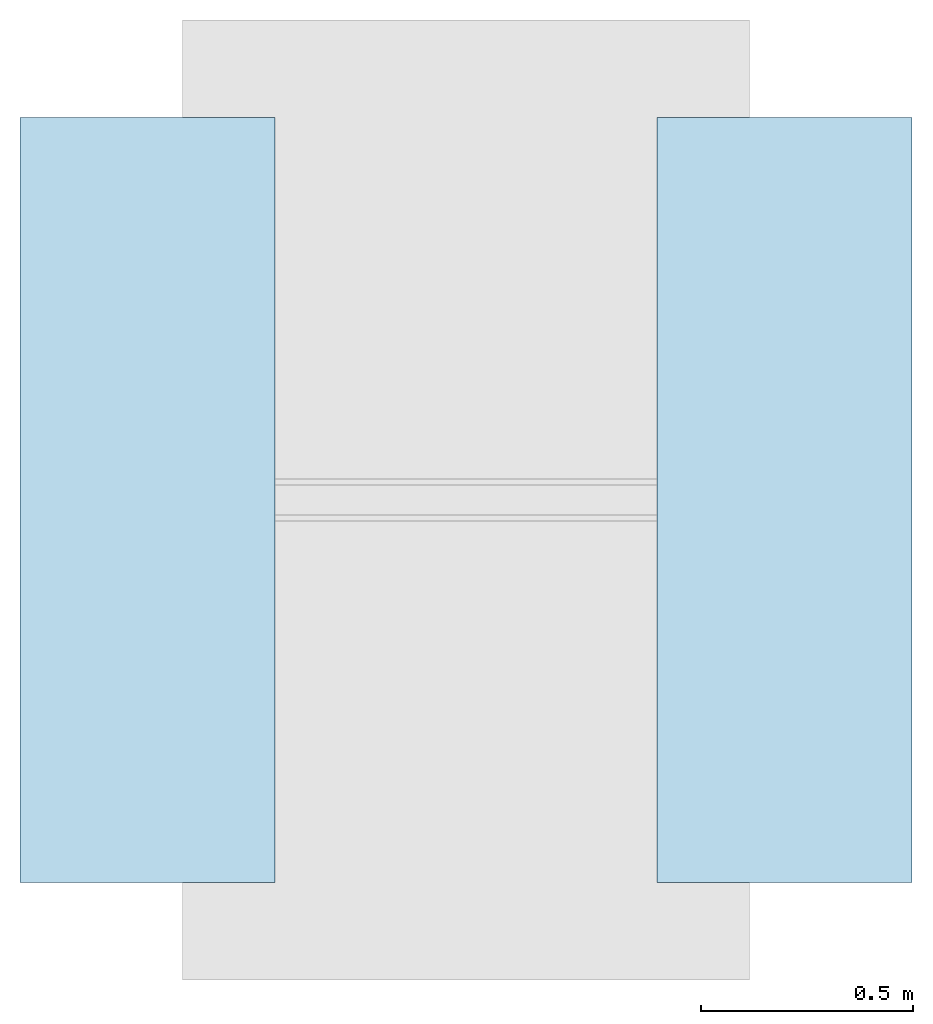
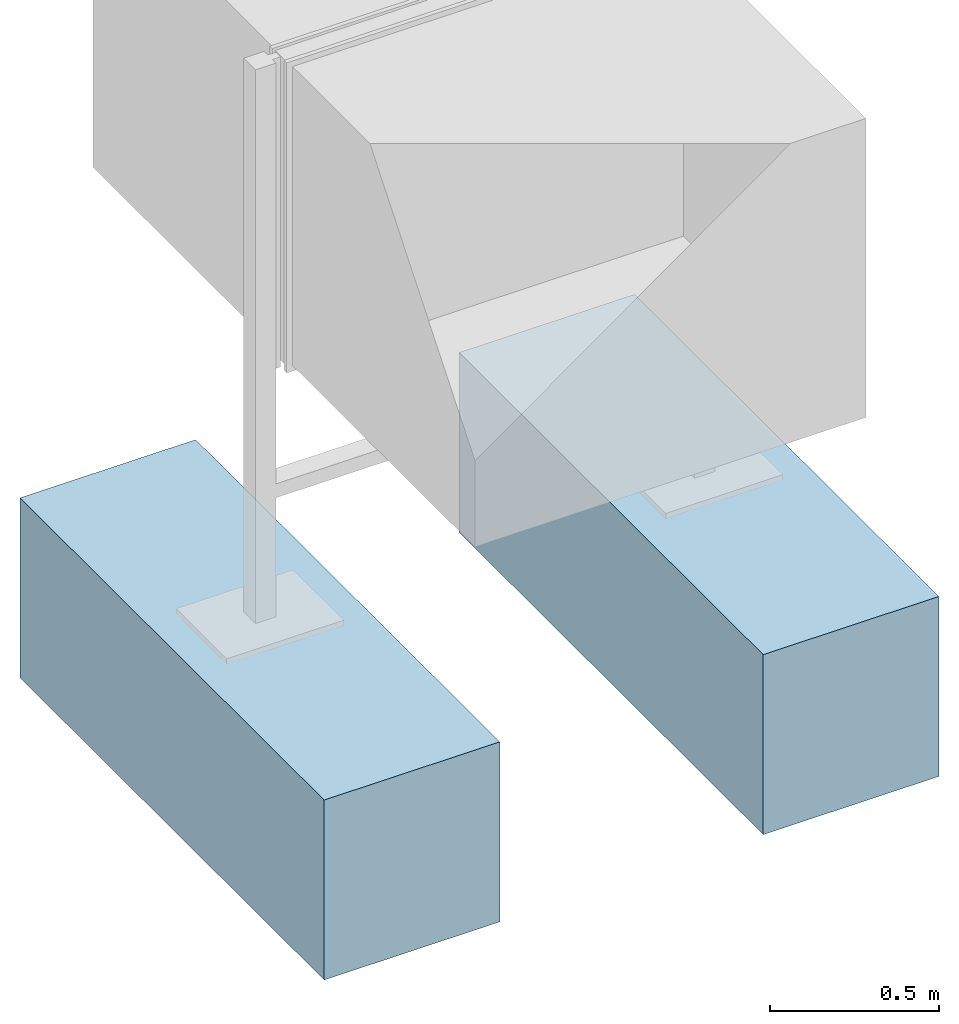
# One storey, incomplete: 2 slabs.
"""IFC4 building model written with IfcOpenShell, lengths in metres."""

from ifc_helpers import new_model, entity, si_unit, converted_unit, direction, frame, frame_2d, origin, origin_2d_with_axis, place, context, subcontext, project, spatial, rectangle, extrude, material, type_object, element, save


model = new_model("IFC4")

# Units and contexts
model_context = context("Model", 3, precision=1e-05, world=origin(), true_north=direction((6.123031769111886e-17, 1.0)))
body_context = subcontext(model_context, "Body", "Model", "MODEL_VIEW")
ifc_project = project(units=[si_unit("LENGTHUNIT", "METRE"), converted_unit("PLANEANGLEUNIT", "DEGREE", entity("IfcPlaneAngleMeasure", 0.017453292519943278), si_unit("PLANEANGLEUNIT", "RADIAN"), dimensions=[0, 0, 0, 0, 0, 0, 0]), si_unit("AREAUNIT", "SQUARE_METRE")], contexts=[model_context])

# Site, building, storey
site_placement = place(None, origin())
site = spatial("IfcSite", under=ifc_project, at=site_placement, Name="Default", CompositionType="ELEMENT")
building_placement = place(site_placement, origin())
building = spatial("IfcBuilding", under=site, at=building_placement, CompositionType="ELEMENT")
storey_placement = place(building_placement, origin())
storey = spatial("IfcBuildingStorey", under=building, at=storey_placement, Name="DB_Bezugshoehe_max_Bahnsteigkante", CompositionType="ELEMENT", Elevation=0.0)

# Slabs
ifc_material = material(Name="DB_Ortbeton", Category="DB_Beton")
slab_type = type_object("IfcSlabType", Name="DB_Vitrine_Fundament:DB_Vitrine_Fundament", PredefinedType="BASESLAB", material=ifc_material)
slab_1_placement = place(storey_placement, origin())
element("IfcSlab", 1, at=slab_1_placement, inside=storey, type_object=slab_type, Name="DB_Vitrine_Fundament:DB_Vitrine_Fundament", ObjectType="DB_Vitrine_Fundament:DB_Vitrine_Fundament", PredefinedType="BASESLAB", context=body_context, shape_type="SweptSolid", body=[
    extrude(rectangle(XDim=1.8, YDim=0.5999999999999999, at=origin_2d_with_axis()), frame((0.0, 0.0, 0.04999999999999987), z_axis=(0.0, 0.0, 1.0), x_axis=(0.0, 1.0, 0.0)), (0.0, 0.0, 1.0), 0.5999999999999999),
    extrude(rectangle(XDim=0.5999999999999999, YDim=1.7999999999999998, at=origin_2d_with_axis()), frame((0.0, 0.0, 0.0), z_axis=(0.0, 0.0, 1.0), x_axis=(-1.0, 0.0, 0.0)), (0.0, 0.0, 1.0), 0.04999999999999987),
])
slab_2_placement = place(storey_placement, origin())
element("IfcSlab", 2, at=slab_2_placement, inside=storey, type_object=slab_type, Name="DB_Vitrine_Fundament:DB_Vitrine_Fundament", ObjectType="DB_Vitrine_Fundament:DB_Vitrine_Fundament", PredefinedType="BASESLAB", context=body_context, shape_type="SweptSolid", body=[
    extrude(rectangle(XDim=1.8, YDim=0.5999999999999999, at=frame_2d((0.0, -8.326672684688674e-17), x_axis=(1.0, 0.0))), frame((1.500000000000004, 0.0, 0.04999999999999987), z_axis=(0.0, 0.0, 1.0), x_axis=(0.0, 1.0, 0.0)), (0.0, 0.0, 1.0), 0.5999999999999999),
    extrude(rectangle(XDim=0.6000000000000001, YDim=1.7999999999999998, at=origin_2d_with_axis()), frame((1.500000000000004, 0.0, 0.0), z_axis=(0.0, 0.0, 1.0), x_axis=(-1.0, 0.0, 0.0)), (0.0, 0.0, 1.0), 0.04999999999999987),
])

save(model, "model.ifc")
